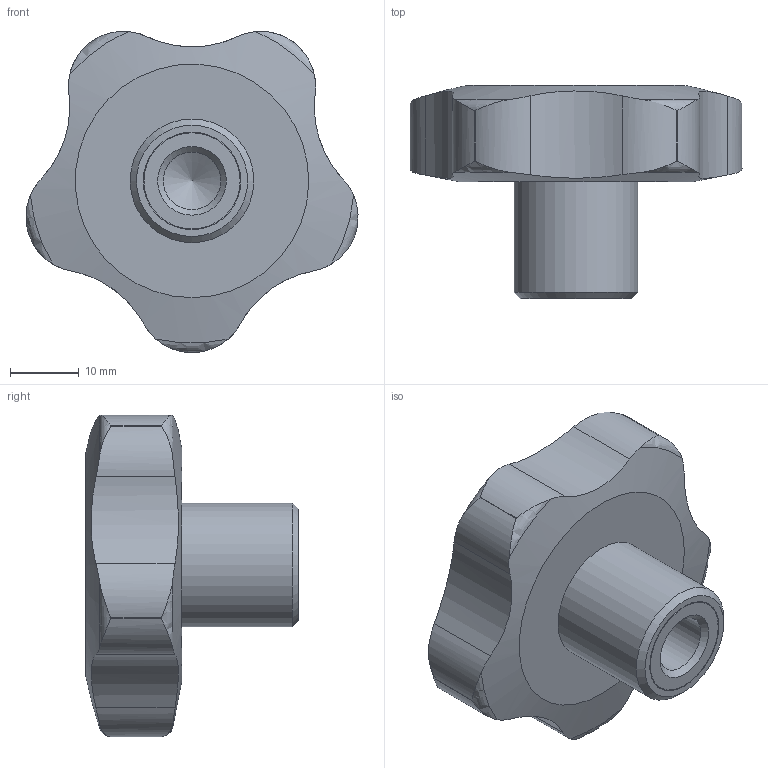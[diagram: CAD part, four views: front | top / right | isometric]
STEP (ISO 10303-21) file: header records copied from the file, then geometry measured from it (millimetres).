
FILE_DESCRIPTION( ( 'STEP AP203' ), '1' );
FILE_NAME( 'C:/Temp/Ganter_Step_05_03_2020/data/2_2/gn_5337_4/gn_5337_4_b/Star knob GN 5337.4-50-M10.stp', '2020-03-05T12:09:34', ( 'License CC BY-ND 4.0' ), ( 'CADENAS' ), ' ', 'PARTsolutions', ' ' );
FILE_SCHEMA( ( 'CONFIG_CONTROL_DESIGN' ) );
Length unit declared in the file: millimetre
Products named in the file (1): _Star knob GN 5337.4-50-M10
Bounding box: 48.33 x 31 x 46.75 mm (x, y, z)
Volume: 23406.6 mm3; surface area: 6335.3 mm2
Topology: 1 solids, 1 shells, 44 faces, 117 edges, 77 vertices
Faces by surface type: cylinder 24, torus 10, cone 4, plane 4, bspline 1, sphere 1
Full cylindrical faces by diameter (mm): 8.376 x1, 14 x1, 14.2 x1, 18 x1
Entity records: 1979 total; most frequent: CARTESIAN_POINT 975, ORIENTED_EDGE 204, DIRECTION 172, EDGE_CURVE 102, AXIS2_PLACEMENT_3D 76, VERTEX_POINT 75, EDGE_LOOP 56, B_SPLINE_CURVE_WITH_KNOTS 50
